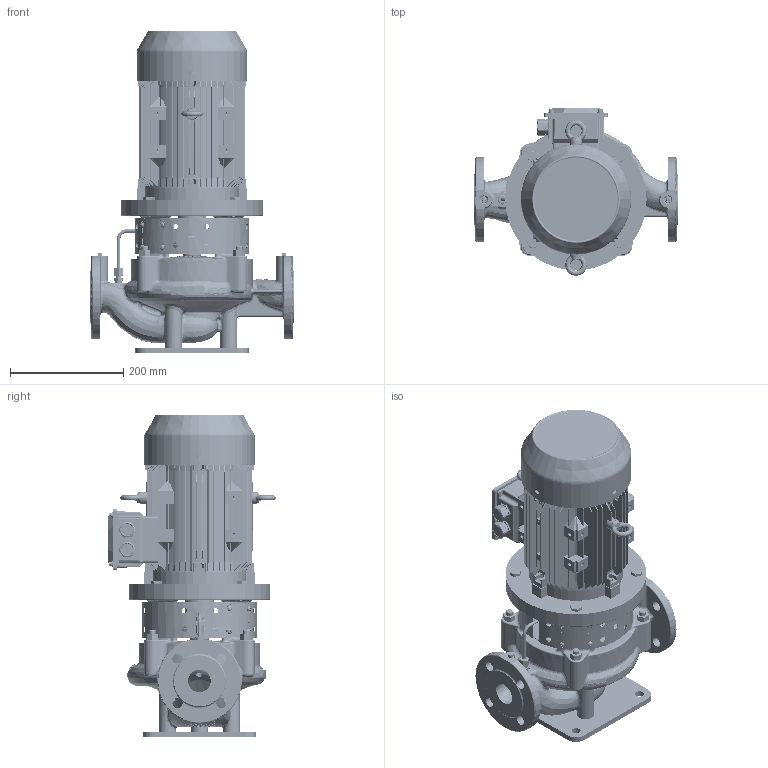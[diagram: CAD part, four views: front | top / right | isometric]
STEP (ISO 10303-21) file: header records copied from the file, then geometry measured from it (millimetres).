
FILE_DESCRIPTION((''),'2;1');
FILE_NAME('409677_ASM','2026-08-12T09:19:22',('brhe'),(''),'CREO PARAMETRIC BY PTC INC, 2023424','CREO PARAMETRIC BY PTC INC, 2023424','');
FILE_SCHEMA(('CONFIG_CONTROL_DESIGN'));
Products named in the file (35): 560883; 561120; 560913; 3008-060KA080; 760279; 760085; 2039311; E41376; 3141-000BA116; 704390; 1833898; 704047_AF5; 659232_ASM; 115470; 115621; 692144_ASM; 560940; 708791; 115363_AF0; 706717; 115635; 708002; 700306; 703239; 659235_ASM; 712095_AF0; 721416; 659238_ASM; 190630; 700365; 678594_ASM; PRT0001; ESL40-180N_PRIMING_ASM; 852200; 409677_ASM
Assembly tree (56 placements, depth 4):
  409677_ASM
    659232_ASM
      560883
      561120
      560913
      3008-060KA080  x4
      760279  x4
      760085
      2039311
      E41376
      3141-000BA116  x2
      704390  x3
      1833898
      704047_AF5
    659235_ASM
      692144_ASM
        115470
        115621
      560940
      708791  x4
      115363_AF0
      706717  x4
      115635
      708002  x3
      700306  x3
      703239  x2
    659238_ASM
      712095_AF0
      721416
    678594_ASM
      190630
      700365  x3
    ESL40-180N_PRIMING_ASM
      PRT0001
    852200
Bounding box: 360 x 296.6 x 571.49 mm (x, y, z)
Volume: 9976478.2 mm3; surface area: 1964108.5 mm2
Topology: 49 solids, 94 shells, 5629 faces, 14840 edges, 9497 vertices
Faces by surface type: plane 2212, cylinder 1163, bspline 1023, cone 485, extrusion 475, torus 233, sphere 34, revolution 4
Entity records: 272144 total; most frequent: CARTESIAN_POINT 150390, ORIENTED_EDGE 27736, DIRECTION 21106, EDGE_CURVE 13963, VERTEX_POINT 8974, AXIS2_PLACEMENT_3D 7583, VECTOR 5936, EDGE_LOOP 5717
